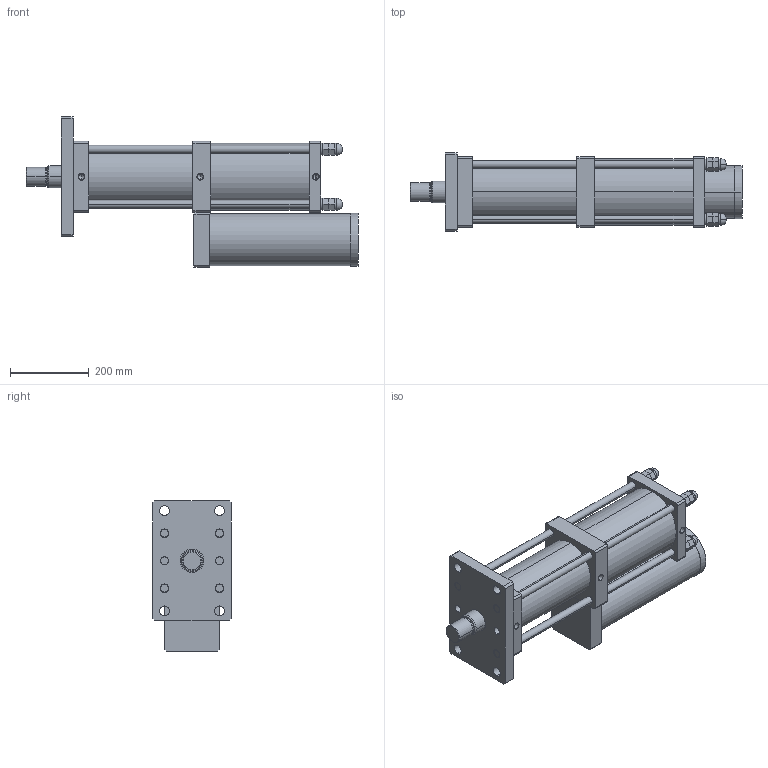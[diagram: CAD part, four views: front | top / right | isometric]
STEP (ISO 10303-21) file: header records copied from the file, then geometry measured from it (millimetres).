
FILE_DESCRIPTION (( 'STEP AP203' ), '1' );
FILE_NAME ('MPT-125-200-15-15T.STEP', '2016-03-12T01:29:52', ( 'WIN' ), ( '' ), 'SwSTEP 2.0', 'SolidWorks 2014', '' );
FILE_SCHEMA (( 'CONFIG_CONTROL_DESIGN' ));
Length unit declared in the file: millimetre
Products named in the file (1): MPT-125-200-15-15T
Bounding box: 845.5 x 200 x 382.5 mm (x, y, z)
Volume: 18028812.3 mm3; surface area: 1329892.3 mm2
Topology: 17 solids, 17 shells, 321 faces, 732 edges, 458 vertices
Faces by surface type: plane 155, cylinder 124, cone 30, sphere 8, torus 4
Entity records: 8969 total; most frequent: DIRECTION 1654, CARTESIAN_POINT 1480, ORIENTED_EDGE 1416, EDGE_CURVE 708, AXIS2_PLACEMENT_3D 624, VERTEX_POINT 450, VECTOR 406, LINE 406
